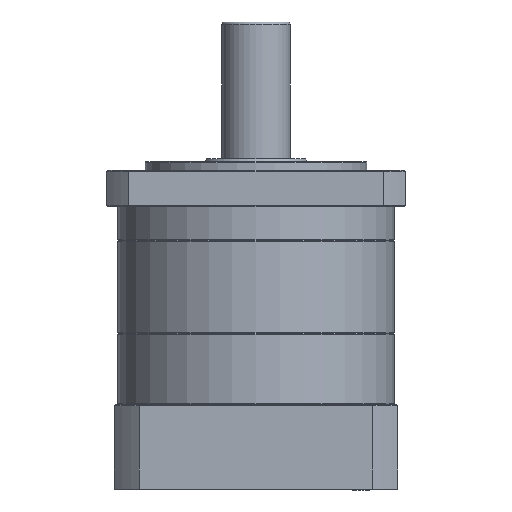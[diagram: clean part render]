
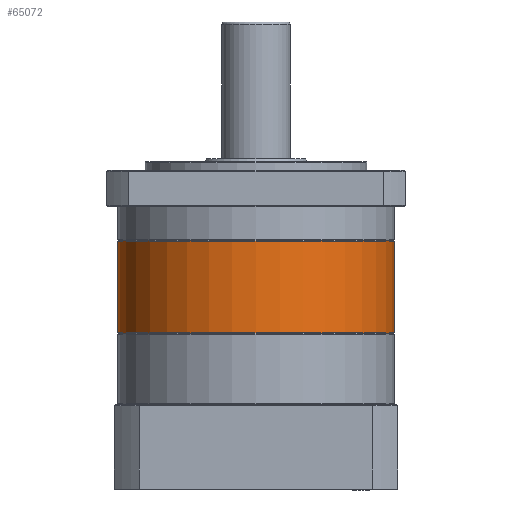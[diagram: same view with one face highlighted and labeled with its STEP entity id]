
A CAD part, front view. The second image highlights one B-rep face of the part: STEP entity #65072.
In plain terms, the highlighted cylindrical face has radius 81 mm (diameter 162 mm), a partial arc.
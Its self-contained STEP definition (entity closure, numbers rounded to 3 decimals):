
#146 = CYLINDRICAL_SURFACE ( 'NONE', #33601, 81. ) ;
#2143 = AXIS2_PLACEMENT_3D ( 'NONE', #30593, #21456, #60944 ) ;
#4212 = CARTESIAN_POINT ( 'NONE',  ( 255.125, 67.755, 82.063 ) ) ;
#5276 = VERTEX_POINT ( 'NONE', #4212 ) ;
#6839 = EDGE_CURVE ( 'NONE', #90228, #56355, #57731, .T. ) ;
#8832 = VERTEX_POINT ( 'NONE', #95594 ) ;
#12484 = CARTESIAN_POINT ( 'NONE',  ( 255.125, 67.755, 28.063 ) ) ;
#15334 = LINE ( 'NONE', #12484, #73431 ) ;
#15410 = DIRECTION ( 'NONE',  ( 0., 0., -1. ) ) ;
#17878 = CARTESIAN_POINT ( 'NONE',  ( 93.125, 67.755, 82.063 ) ) ;
#21069 = EDGE_CURVE ( 'NONE', #8832, #90228, #44162, .T. ) ;
#21456 = DIRECTION ( 'NONE',  ( 0., 0., -1. ) ) ;
#23774 = DIRECTION ( 'NONE',  ( 0., 0., 1. ) ) ;
#25110 = CARTESIAN_POINT ( 'NONE',  ( 93.125, 67.755, 28.063 ) ) ;
#25331 = EDGE_CURVE ( 'NONE', #5276, #56355, #83607, .T. ) ;
#27672 = CARTESIAN_POINT ( 'NONE',  ( 174.125, 67.755, 28.063 ) ) ;
#30593 = CARTESIAN_POINT ( 'NONE',  ( 174.125, 67.755, 82.063 ) ) ;
#32363 = CARTESIAN_POINT ( 'NONE',  ( 255.125, 67.755, 28.563 ) ) ;
#33581 = AXIS2_PLACEMENT_3D ( 'NONE', #66919, #50715, #89858 ) ;
#33601 = AXIS2_PLACEMENT_3D ( 'NONE', #27672, #50295, #43498 ) ;
#36250 = ORIENTED_EDGE ( 'NONE', *, *, #94503, .T. ) ;
#37936 = AXIS2_PLACEMENT_3D ( 'NONE', #47160, #15410, #46139 ) ;
#43498 = DIRECTION ( 'NONE',  ( 1., 0., 0. ) ) ;
#44162 = CIRCLE ( 'NONE', #37936, 81. ) ;
#46139 = DIRECTION ( 'NONE',  ( 0., 1., 0. ) ) ;
#47160 = CARTESIAN_POINT ( 'NONE',  ( 174.125, 67.755, 28.563 ) ) ;
#50295 = DIRECTION ( 'NONE',  ( 0., 0., 1. ) ) ;
#50715 = DIRECTION ( 'NONE',  ( 0., 0., -1. ) ) ;
#56355 = VERTEX_POINT ( 'NONE', #17878 ) ;
#57731 = LINE ( 'NONE', #25110, #79536 ) ;
#59360 = EDGE_CURVE ( 'NONE', #79058, #8832, #78341, .T. ) ;
#60944 = DIRECTION ( 'NONE',  ( 1., 0., 0. ) ) ;
#62034 = ORIENTED_EDGE ( 'NONE', *, *, #25331, .T. ) ;
#65072 = ADVANCED_FACE ( 'NONE', ( #72632 ), #146, .T. ) ;
#66919 = CARTESIAN_POINT ( 'NONE',  ( 174.125, 67.755, 28.563 ) ) ;
#70193 = ORIENTED_EDGE ( 'NONE', *, *, #6839, .F. ) ;
#72063 = ORIENTED_EDGE ( 'NONE', *, *, #59360, .F. ) ;
#72632 = FACE_OUTER_BOUND ( 'NONE', #93514, .T. ) ;
#73431 = VECTOR ( 'NONE', #96893, 1000. ) ;
#78341 = CIRCLE ( 'NONE', #33581, 81. ) ;
#79058 = VERTEX_POINT ( 'NONE', #32363 ) ;
#79536 = VECTOR ( 'NONE', #23774, 1000. ) ;
#80049 = ORIENTED_EDGE ( 'NONE', *, *, #21069, .F. ) ;
#81417 = CARTESIAN_POINT ( 'NONE',  ( 93.125, 67.755, 28.563 ) ) ;
#83607 = CIRCLE ( 'NONE', #2143, 81. ) ;
#89858 = DIRECTION ( 'NONE',  ( 0., 1., 0. ) ) ;
#90228 = VERTEX_POINT ( 'NONE', #81417 ) ;
#93514 = EDGE_LOOP ( 'NONE', ( #70193, #80049, #72063, #36250, #62034 ) ) ;
#94503 = EDGE_CURVE ( 'NONE', #79058, #5276, #15334, .T. ) ;
#95594 = CARTESIAN_POINT ( 'NONE',  ( 174.125, -13.245, 28.563 ) ) ;
#96893 = DIRECTION ( 'NONE',  ( 0., 0., 1. ) ) ;
